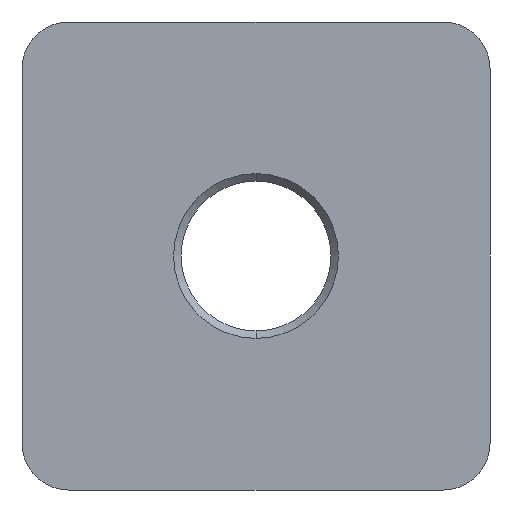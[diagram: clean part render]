
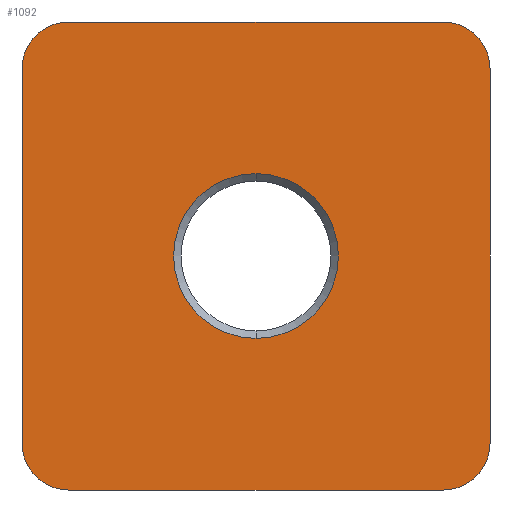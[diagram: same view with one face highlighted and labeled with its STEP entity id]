
A CAD part, front view. The second image highlights one B-rep face of the part: STEP entity #1092.
In plain terms, the highlighted planar face has unit normal (0, -1, 0).
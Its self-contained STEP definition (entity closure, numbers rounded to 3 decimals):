
#24 = EDGE_CURVE ( 'NONE', #185, #33, #890, .T. ) ;
#33 = VERTEX_POINT ( 'NONE', #885 ) ;
#47 = VERTEX_POINT ( 'NONE', #848 ) ;
#52 = EDGE_CURVE ( 'NONE', #47, #60, #855, .T. ) ;
#55 = EDGE_CURVE ( 'NONE', #103, #185, #864, .T. ) ;
#60 = VERTEX_POINT ( 'NONE', #878 ) ;
#62 = VERTEX_POINT ( 'NONE', #876 ) ;
#76 = EDGE_CURVE ( 'NONE', #33, #62, #712, .T. ) ;
#83 = EDGE_CURVE ( 'NONE', #62, #93, #734, .T. ) ;
#93 = VERTEX_POINT ( 'NONE', #769 ) ;
#103 = VERTEX_POINT ( 'NONE', #1020 ) ;
#179 = EDGE_CURVE ( 'NONE', #1110, #103, #911, .T. ) ;
#185 = VERTEX_POINT ( 'NONE', #277 ) ;
#205 = VERTEX_POINT ( 'NONE', #304 ) ;
#207 = EDGE_CURVE ( 'NONE', #208, #205, #303, .T. ) ;
#208 = VERTEX_POINT ( 'NONE', #298 ) ;
#277 = CARTESIAN_POINT ( 'NONE',  ( 20., 0., 25. ) ) ;
#298 = CARTESIAN_POINT ( 'NONE',  ( 0., 0., -8.8 ) ) ;
#299 = DIRECTION ( 'NONE',  ( 0., 0., 1. ) ) ;
#300 = DIRECTION ( 'NONE',  ( 0., 1., 0. ) ) ;
#301 = CARTESIAN_POINT ( 'NONE',  ( 0., 0., 0. ) ) ;
#302 = AXIS2_PLACEMENT_3D ( 'NONE', #301, #300, #299 ) ;
#303 = CIRCLE ( 'NONE', #302, 8.8 ) ;
#304 = CARTESIAN_POINT ( 'NONE',  ( 0., 0., 8.8 ) ) ;
#472 = DIRECTION ( 'NONE',  ( 0., 0., 1. ) ) ;
#473 = DIRECTION ( 'NONE',  ( 0., 1., 0. ) ) ;
#474 = CARTESIAN_POINT ( 'NONE',  ( -20., 0., -20. ) ) ;
#475 = AXIS2_PLACEMENT_3D ( 'NONE', #474, #473, #472 ) ;
#476 = FACE_OUTER_BOUND ( 'NONE', #1095, .T. ) ;
#477 = FACE_BOUND ( 'NONE', #1084, .T. ) ;
#481 = PLANE ( 'NONE',  #475 ) ;
#485 = DIRECTION ( 'NONE',  ( -1., 0., 0. ) ) ;
#486 = VECTOR ( 'NONE', #485, 1000. ) ;
#487 = CARTESIAN_POINT ( 'NONE',  ( -20., 0., -25. ) ) ;
#488 = LINE ( 'NONE', #487, #486 ) ;
#507 = CARTESIAN_POINT ( 'NONE',  ( -25., 0., 20. ) ) ;
#527 = DIRECTION ( 'NONE',  ( 0., 0., 1. ) ) ;
#528 = DIRECTION ( 'NONE',  ( 0., 1., 0. ) ) ;
#529 = CARTESIAN_POINT ( 'NONE',  ( 0., 0., 0. ) ) ;
#530 = AXIS2_PLACEMENT_3D ( 'NONE', #529, #528, #527 ) ;
#531 = CIRCLE ( 'NONE', #530, 8.8 ) ;
#556 = DIRECTION ( 'NONE',  ( 0., 0., 1. ) ) ;
#557 = VECTOR ( 'NONE', #556, 1000. ) ;
#558 = CARTESIAN_POINT ( 'NONE',  ( -25., 0., 20. ) ) ;
#559 = LINE ( 'NONE', #558, #557 ) ;
#709 = DIRECTION ( 'NONE',  ( 0., 0., -1. ) ) ;
#710 = VECTOR ( 'NONE', #709, 1000. ) ;
#711 = CARTESIAN_POINT ( 'NONE',  ( 25., 0., 20. ) ) ;
#712 = LINE ( 'NONE', #711, #710 ) ;
#731 = DIRECTION ( 'NONE',  ( 0., 0., -1. ) ) ;
#732 = DIRECTION ( 'NONE',  ( 0., 1., 0. ) ) ;
#733 = AXIS2_PLACEMENT_3D ( 'NONE', #735, #732, #731 ) ;
#734 = CIRCLE ( 'NONE', #733, 5. ) ;
#735 = CARTESIAN_POINT ( 'NONE',  ( 20., 0., -20. ) ) ;
#769 = CARTESIAN_POINT ( 'NONE',  ( 20., 0., -25. ) ) ;
#791 = VECTOR ( 'NONE', #862, 1000. ) ;
#835 = CARTESIAN_POINT ( 'NONE',  ( 20., 0., 20. ) ) ;
#848 = CARTESIAN_POINT ( 'NONE',  ( -20., 0., -25. ) ) ;
#853 = DIRECTION ( 'NONE',  ( 0., 1., 0. ) ) ;
#854 = AXIS2_PLACEMENT_3D ( 'NONE', #859, #853, #870 ) ;
#855 = CIRCLE ( 'NONE', #854, 5. ) ;
#859 = CARTESIAN_POINT ( 'NONE',  ( -20., 0., -20. ) ) ;
#862 = DIRECTION ( 'NONE',  ( 1., 0., 0. ) ) ;
#863 = CARTESIAN_POINT ( 'NONE',  ( -20., 0., 25. ) ) ;
#864 = LINE ( 'NONE', #863, #791 ) ;
#870 = DIRECTION ( 'NONE',  ( 0., 0., 1. ) ) ;
#876 = CARTESIAN_POINT ( 'NONE',  ( 25., 0., -20. ) ) ;
#878 = CARTESIAN_POINT ( 'NONE',  ( -25., 0., -20. ) ) ;
#885 = CARTESIAN_POINT ( 'NONE',  ( 25., 0., 20. ) ) ;
#887 = DIRECTION ( 'NONE',  ( 0., 0., 1. ) ) ;
#888 = DIRECTION ( 'NONE',  ( 0., 1., 0. ) ) ;
#889 = AXIS2_PLACEMENT_3D ( 'NONE', #835, #888, #887 ) ;
#890 = CIRCLE ( 'NONE', #889, 5. ) ;
#903 = DIRECTION ( 'NONE',  ( 0., 1., 0. ) ) ;
#905 = DIRECTION ( 'NONE',  ( 0., 0., -1. ) ) ;
#909 = CARTESIAN_POINT ( 'NONE',  ( -20., 0., 20. ) ) ;
#910 = AXIS2_PLACEMENT_3D ( 'NONE', #909, #903, #905 ) ;
#911 = CIRCLE ( 'NONE', #910, 5. ) ;
#1020 = CARTESIAN_POINT ( 'NONE',  ( -20., 0., 25. ) ) ;
#1051 = ORIENTED_EDGE ( 'NONE', *, *, #179, .F. ) ;
#1052 = ORIENTED_EDGE ( 'NONE', *, *, #1115, .F. ) ;
#1053 = ORIENTED_EDGE ( 'NONE', *, *, #24, .F. ) ;
#1054 = ORIENTED_EDGE ( 'NONE', *, *, #55, .F. ) ;
#1055 = ORIENTED_EDGE ( 'NONE', *, *, #76, .F. ) ;
#1056 = ORIENTED_EDGE ( 'NONE', *, *, #83, .F. ) ;
#1057 = ORIENTED_EDGE ( 'NONE', *, *, #52, .F. ) ;
#1058 = ORIENTED_EDGE ( 'NONE', *, *, #1086, .F. ) ;
#1084 = EDGE_LOOP ( 'NONE', ( #1091, #1089 ) ) ;
#1086 = EDGE_CURVE ( 'NONE', #93, #47, #488, .T. ) ;
#1089 = ORIENTED_EDGE ( 'NONE', *, *, #1093, .T. ) ;
#1091 = ORIENTED_EDGE ( 'NONE', *, *, #207, .T. ) ;
#1092 = ADVANCED_FACE ( 'NONE', ( #477, #476 ), #481, .F. ) ;
#1093 = EDGE_CURVE ( 'NONE', #205, #208, #531, .T. ) ;
#1095 = EDGE_LOOP ( 'NONE', ( #1057, #1058, #1056, #1055, #1053, #1054, #1051, #1052 ) ) ;
#1110 = VERTEX_POINT ( 'NONE', #507 ) ;
#1115 = EDGE_CURVE ( 'NONE', #60, #1110, #559, .T. ) ;
